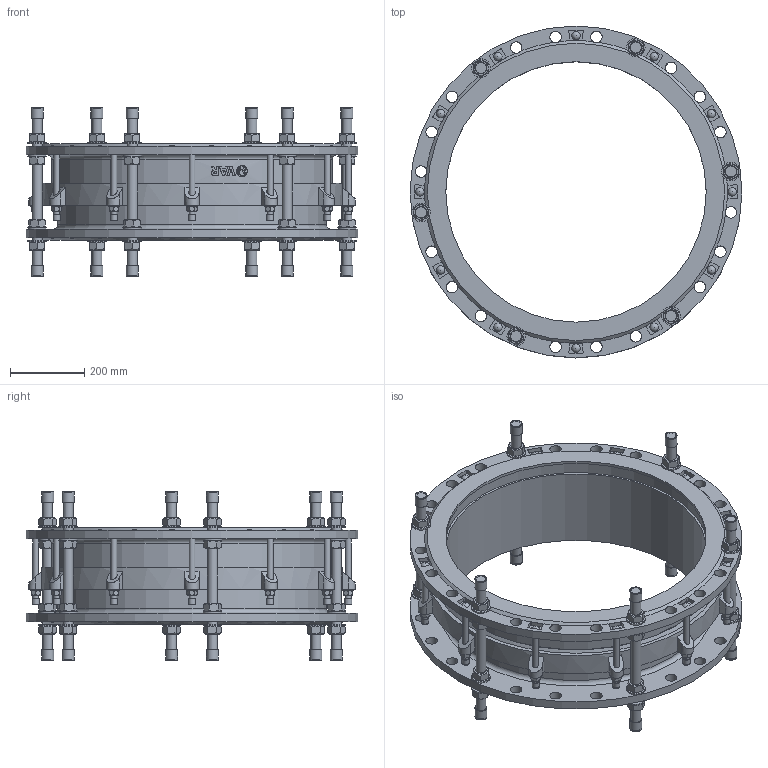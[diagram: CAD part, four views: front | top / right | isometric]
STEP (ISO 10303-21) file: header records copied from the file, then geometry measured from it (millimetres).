
FILE_DESCRIPTION(('STEP AP242'), '1');
FILE_NAME('Ìîíòàæíàÿ âñòàâêà', '', ('UNSPECIFIED'), ('UNSPECIFIED'), 'C3D Converter', 'C3D Toolkit', '');
FILE_SCHEMA(('AP242_MANAGED_MODEL_BASED_3D_ENGINEERING_MIM_LF { 1 0 10303 442 1 1 4 }'));
Length unit declared in the file: millimetre
Products named in the file (13): ШМ.М16.310
Assembly tree (118 placements, depth 2):
  (unnamed)
    (unnamed)
    (unnamed)
    (unnamed)
    (unnamed)  x24
    (unnamed)  x24
    ШМ.М16.310  x6
    (unnamed)  x12
    (unnamed)
    (unnamed)  x12
    (unnamed)  x12
    (unnamed)  x12
    (unnamed)  x12
Bounding box: 892 x 892 x 455.4 mm (x, y, z)
Volume: 26501942.3 mm3; surface area: 4143211.8 mm2
Topology: 118 solids, 118 shells, 1329 faces, 3035 edges, 1921 vertices
Faces by surface type: plane 790, cylinder 316, cone 174, torus 26, sphere 12, extrusion 11
Full cylindrical faces by diameter (mm): 16 x36, 17 x12, 18 x12, 19.2 x12, 27 x42, 28 x24, 30 x12, 30.201 x1, 31 x48, 32.4 x12, 50 x24, 700 x2, 722 x2, 733 x2, 755 x1, 777 x1, 787 x1, 809 x1, 892 x2
Entity records: 28215 total; most frequent: CARTESIAN_POINT 13217, DIRECTION 2548, ORIENTED_EDGE 2302, EDGE_CURVE 1151, AXIS2_PLACEMENT_3D 1025, VERTEX_POINT 820, EDGE_LOOP 663, FACE_BOUND 509
